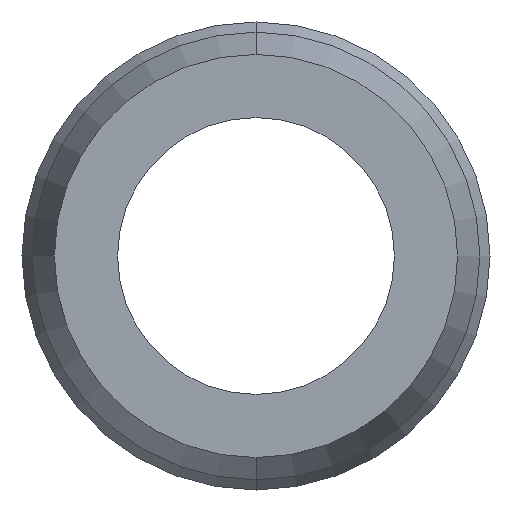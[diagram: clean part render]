
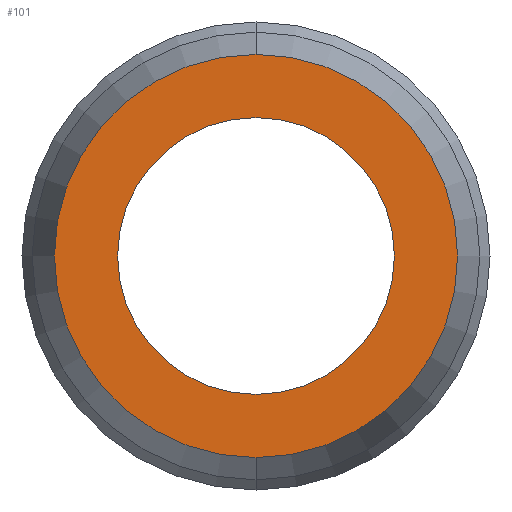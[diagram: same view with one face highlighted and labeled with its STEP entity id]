
A CAD part, front view. The second image highlights one B-rep face of the part: STEP entity #101.
In plain terms, the highlighted planar face has unit normal (0, -1, 0).
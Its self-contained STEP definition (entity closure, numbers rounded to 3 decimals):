
#18 = EDGE_CURVE ( 'NONE', #445, #401, #348, .T. ) ;
#24 = DIRECTION ( 'NONE',  ( 0., 0., 1. ) ) ;
#101 = ADVANCED_FACE ( 'NONE', ( #355, #345 ), #617, .F. ) ;
#163 = CARTESIAN_POINT ( 'NONE',  ( 0., 0., 0. ) ) ;
#167 = DIRECTION ( 'NONE',  ( 0., 1., 0. ) ) ;
#173 = DIRECTION ( 'NONE',  ( 0., 0., 1. ) ) ;
#175 = CARTESIAN_POINT ( 'NONE',  ( 0., 0., 0. ) ) ;
#180 = DIRECTION ( 'NONE',  ( 0., -1., 0. ) ) ;
#188 = CARTESIAN_POINT ( 'NONE',  ( 0., 0., 4.954 ) ) ;
#192 = DIRECTION ( 'NONE',  ( 0., 0., 1. ) ) ;
#194 = CIRCLE ( 'NONE', #509, 4.954 ) ;
#227 = DIRECTION ( 'NONE',  ( 0., 0., 1. ) ) ;
#230 = EDGE_CURVE ( 'NONE', #691, #481, #310, .T. ) ;
#231 = DIRECTION ( 'NONE',  ( 0., 1., 0. ) ) ;
#235 = CARTESIAN_POINT ( 'NONE',  ( 0., 0., 0. ) ) ;
#253 = DIRECTION ( 'NONE',  ( 0., -1., 0. ) ) ;
#276 = CIRCLE ( 'NONE', #766, 3.4 ) ;
#310 = CIRCLE ( 'NONE', #688, 3.4 ) ;
#345 = FACE_BOUND ( 'NONE', #478, .T. ) ;
#348 = CIRCLE ( 'NONE', #597, 4.954 ) ;
#355 = FACE_OUTER_BOUND ( 'NONE', #582, .T. ) ;
#358 = EDGE_CURVE ( 'NONE', #481, #691, #276, .T. ) ;
#401 = VERTEX_POINT ( 'NONE', #188 ) ;
#405 = CARTESIAN_POINT ( 'NONE',  ( 0., 0., -4.954 ) ) ;
#418 = ORIENTED_EDGE ( 'NONE', *, *, #751, .T. ) ;
#445 = VERTEX_POINT ( 'NONE', #405 ) ;
#455 = AXIS2_PLACEMENT_3D ( 'NONE', #623, #636, #639 ) ;
#478 = EDGE_LOOP ( 'NONE', ( #493, #536 ) ) ;
#481 = VERTEX_POINT ( 'NONE', #535 ) ;
#493 = ORIENTED_EDGE ( 'NONE', *, *, #230, .T. ) ;
#509 = AXIS2_PLACEMENT_3D ( 'NONE', #807, #253, #192 ) ;
#535 = CARTESIAN_POINT ( 'NONE',  ( 0., 0., -3.4 ) ) ;
#536 = ORIENTED_EDGE ( 'NONE', *, *, #358, .T. ) ;
#582 = EDGE_LOOP ( 'NONE', ( #418, #645 ) ) ;
#597 = AXIS2_PLACEMENT_3D ( 'NONE', #175, #180, #24 ) ;
#617 = PLANE ( 'NONE',  #455 ) ;
#623 = CARTESIAN_POINT ( 'NONE',  ( 0., 0., 0. ) ) ;
#636 = DIRECTION ( 'NONE',  ( 0., 1., 0. ) ) ;
#639 = DIRECTION ( 'NONE',  ( 0., 0., 1. ) ) ;
#645 = ORIENTED_EDGE ( 'NONE', *, *, #18, .T. ) ;
#688 = AXIS2_PLACEMENT_3D ( 'NONE', #163, #167, #173 ) ;
#691 = VERTEX_POINT ( 'NONE', #700 ) ;
#700 = CARTESIAN_POINT ( 'NONE',  ( 0., 0., 3.4 ) ) ;
#751 = EDGE_CURVE ( 'NONE', #401, #445, #194, .T. ) ;
#766 = AXIS2_PLACEMENT_3D ( 'NONE', #235, #231, #227 ) ;
#807 = CARTESIAN_POINT ( 'NONE',  ( 0., 0., 0. ) ) ;
